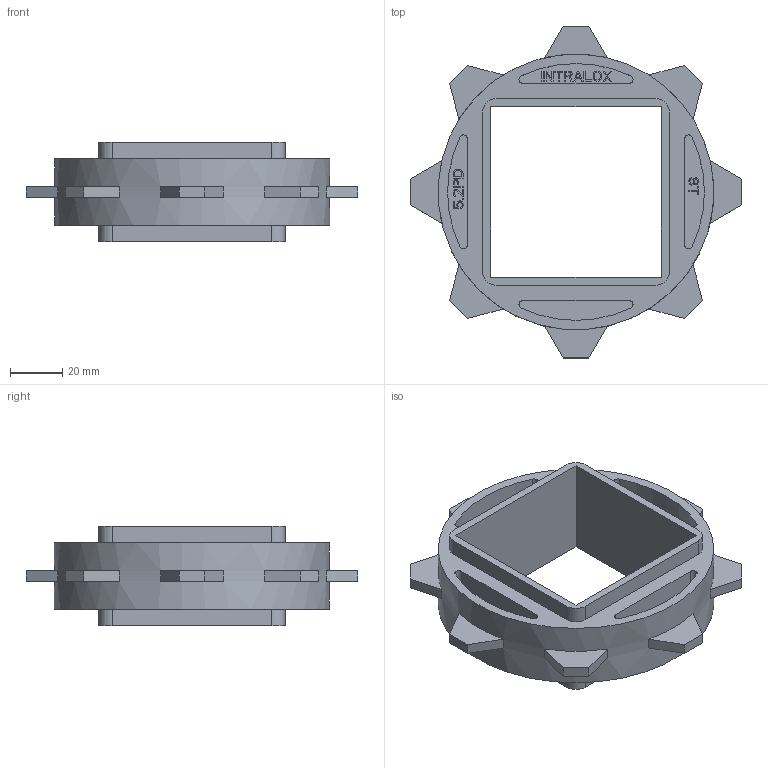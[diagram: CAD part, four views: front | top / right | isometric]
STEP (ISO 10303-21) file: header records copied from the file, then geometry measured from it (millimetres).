
FILE_DESCRIPTION((''),'2;1');
FILE_NAME('S400_SPROCKET_52X25_60_SQ','2008-12-12T',('jmumphre'),(''),'PRO/ENGINEER BY PARAMETRIC TECHNOLOGY CORPORATION, 2008150','PRO/ENGINEER BY PARAMETRIC TECHNOLOGY CORPORATION, 2008150','');
FILE_SCHEMA(('CONFIG_CONTROL_DESIGN'));
Length unit declared in the file: inch
Products named in the file (1): S400_SPROCKET_52X25_60_SQ
Bounding box: 126.63 x 126.63 x 37.85 mm (x, y, z)
Volume: 108049.2 mm3; surface area: 41729.7 mm2
Topology: 1 solids, 1 shells, 445 faces, 1209 edges, 806 vertices
Faces by surface type: plane 411, cylinder 34
Entity records: 13851 total; most frequent: CARTESIAN_POINT 2460, ORIENTED_EDGE 2418, DIRECTION 2183, EDGE_CURVE 1209, VECTOR 1125, LINE 1125, VERTEX_POINT 806, AXIS2_PLACEMENT_3D 529
